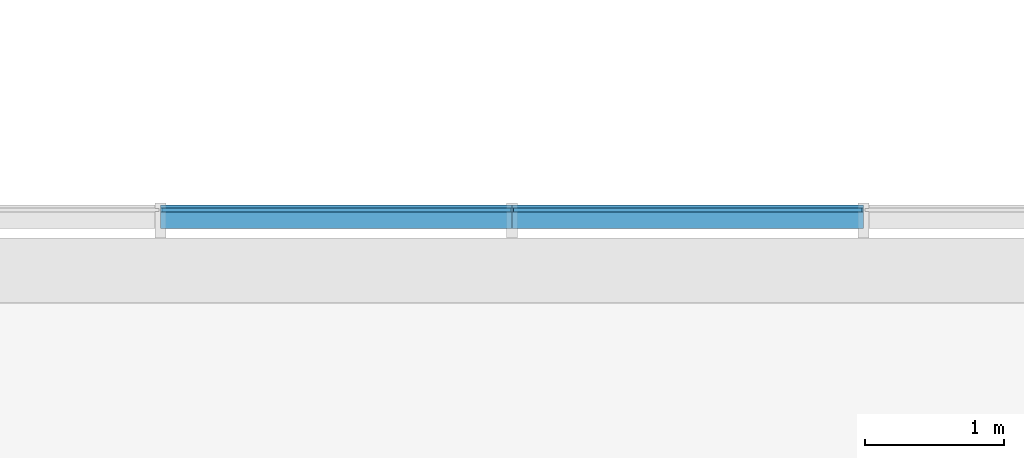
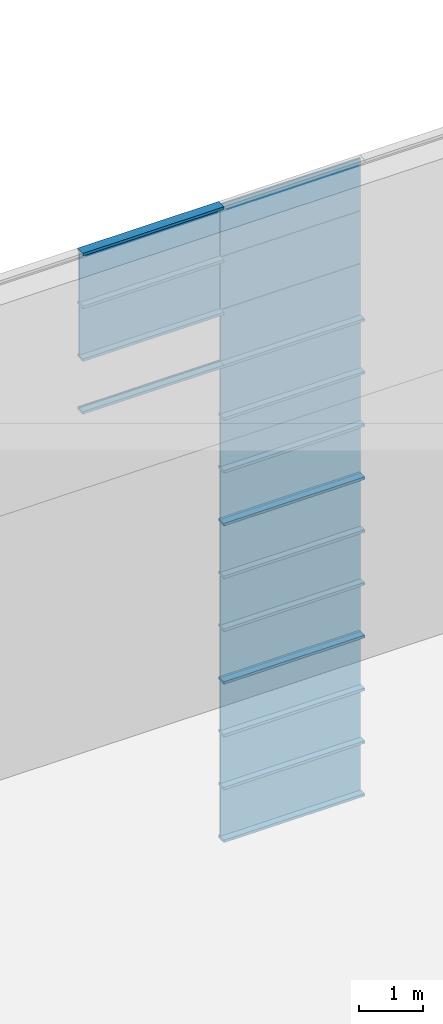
# One storey, part 49 of 105: 30 building element parts, 4 elements without a shape of their own.
"""IFC4 building model written with IfcOpenShell, lengths in millimetres."""

from ifc_helpers import new_model, entity, si_unit, converted_unit, derived_unit, direction, frame, origin_with_axes, place, context, subcontext, project, spatial, triangles, material, element, aggregate, save


model = new_model("IFC4")

# Units and contexts
model_context = context("Model", 3, precision=1e-05, world=origin_with_axes(), true_north=direction((0.0, 1.0)))
body_context = subcontext(model_context, "Body", "Model", "MODEL_VIEW")
ifc_project = project(units=[si_unit("LENGTHUNIT", "METRE", prefix="MILLI"), si_unit("AREAUNIT", "SQUARE_METRE"), si_unit("VOLUMEUNIT", "CUBIC_METRE"), converted_unit("PLANEANGLEUNIT", "DEGREE", entity("IfcLengthMeasure", 0.017453), si_unit("PLANEANGLEUNIT", "RADIAN"), dimensions=[0, 0, 0, 0, 0, 0, 0]), si_unit("SOLIDANGLEUNIT", "STERADIAN"), si_unit("MASSUNIT", "GRAM"), si_unit("TIMEUNIT", "SECOND"), si_unit("THERMODYNAMICTEMPERATUREUNIT", "DEGREE_CELSIUS"), si_unit("LUMINOUSINTENSITYUNIT", "LUMEN"), si_unit("POWERUNIT", "WATT"), derived_unit("THERMALTRANSMITTANCEUNIT", [(si_unit("POWERUNIT", "WATT"), 1), (si_unit("THERMODYNAMICTEMPERATUREUNIT", "KELVIN"), -1), (si_unit("AREAUNIT", "SQUARE_METRE"), -1)])], contexts=[model_context])

# Site, building, storey
site_placement = place(None, origin_with_axes())
site = spatial("IfcSite", under=ifc_project, at=site_placement, Name="Default Site", CompositionType="ELEMENT")
building_placement = place(site_placement, origin_with_axes())
building = spatial("IfcBuilding", under=site, at=building_placement, Name="Default Building", CompositionType="ELEMENT")
storey_placement = place(building_placement, origin_with_axes())
storey = spatial("IfcBuildingStorey", under=building, at=storey_placement, Name="OG - Story", CompositionType="ELEMENT", Elevation=0.0)

# Curtain wall, building element parts
curtain_wall_1_placement = place(storey_placement, origin_with_axes())
curtain_wall_1 = element("IfcCurtainWall", 1, at=curtain_wall_1_placement, inside=storey, Name="Fassade-004", PredefinedType="NOTDEFINED")
ifc_material_1 = material(Name="Normalglas")
building_element_part_1_placement = place(curtain_wall_1_placement, frame((33014.549222, -4389.262838, 0.0), z_axis=(0.0, 0.0, 1.0), x_axis=(1.0, 0.0, 0.0)))
building_element_part_1 = element("IfcBuildingElementPart", 2, at=building_element_part_1_placement, material=ifc_material_1, Name="Normalglas", PredefinedType="NOTDEFINED", context=body_context, shape_type="Tessellation", body=[
    triangles([(26516.316, -14.999, 995.0), (26516.316, 15.0, 995.0), (24010.0, 15.0, 995.0), (24010.0, -14.999, 995.0), (26516.316, -14.999, 5.0), (26516.316, 15.0, 5.0), (24010.0, 15.0, 5.0), (24010.0, -14.999, 5.0)], [[1, 2, 3], [1, 3, 4], [5, 6, 2], [5, 2, 1], [2, 6, 7], [2, 7, 3], [4, 3, 7], [4, 7, 8], [1, 4, 8], [1, 8, 5], [8, 7, 6], [8, 6, 5]], closed=False),
])
building_element_part_2_placement = place(curtain_wall_1_placement, frame((33014.549222, -4389.262838, 0.0), z_axis=(0.0, 0.0, 1.0), x_axis=(1.0, 0.0, 0.0)))
building_element_part_2 = element("IfcBuildingElementPart", 3, at=building_element_part_2_placement, material=ifc_material_1, Name="Normalglas", PredefinedType="NOTDEFINED", context=body_context, shape_type="Tessellation", body=[
    triangles([(26516.316, -14.999, 1995.0), (26516.316, 15.0, 1995.0), (24010.0, 15.0, 1995.0), (24010.0, -14.999, 1995.0), (26516.316, -14.999, 1005.0), (26516.316, 15.0, 1005.0), (24010.0, 15.0, 1005.0), (24010.0, -14.999, 1005.0)], [[1, 2, 3], [1, 3, 4], [5, 6, 2], [5, 2, 1], [2, 6, 7], [2, 7, 3], [4, 3, 7], [4, 7, 8], [1, 4, 8], [1, 8, 5], [8, 7, 6], [8, 6, 5]], closed=False),
])
building_element_part_3_placement = place(curtain_wall_1_placement, frame((33014.549222, -4389.262838, 0.0), z_axis=(0.0, 0.0, 1.0), x_axis=(1.0, 0.0, 0.0)))
building_element_part_3 = element("IfcBuildingElementPart", 4, at=building_element_part_3_placement, material=ifc_material_1, Name="Normalglas", PredefinedType="NOTDEFINED", context=body_context, shape_type="Tessellation", body=[
    triangles([(26516.316, -14.999, 2995.0), (26516.316, 15.0, 2995.0), (24010.0, 15.0, 2995.0), (24010.0, -14.999, 2995.0), (26516.316, -14.999, 2005.0), (26516.316, 15.0, 2005.0), (24010.0, 15.0, 2005.0), (24010.0, -14.999, 2005.0)], [[1, 2, 3], [1, 3, 4], [5, 6, 2], [5, 2, 1], [2, 6, 7], [2, 7, 3], [4, 3, 7], [4, 7, 8], [1, 4, 8], [1, 8, 5], [8, 7, 6], [8, 6, 5]], closed=False),
])
ifc_material_2 = material(Name="Blech")
building_element_part_4_placement = place(curtain_wall_1_placement, frame((33014.549222, -4389.262838, 0.0), z_axis=(0.0, 0.0, 1.0), x_axis=(1.0, 0.0, 0.0)))
building_element_part_4 = element("IfcBuildingElementPart", 5, at=building_element_part_4_placement, material=ifc_material_2, Name="Blech", PredefinedType="NOTDEFINED", context=body_context, shape_type="Tessellation", body=[
    triangles([(26526.316, 35.0, -24.999), (26526.316, 35.0, 25.0), (26526.316, 15.0, 25.0), (26526.316, 15.0, 5.0), (26526.316, -14.999, 5.0), (26526.316, -132.999, 25.0), (26526.316, -132.999, -24.999), (26526.316, -14.999, 25.0), (24000.0, -14.999, 5.0), (24000.0, -14.999, 25.0), (24000.0, -132.999, 25.0), (24000.0, -132.999, -24.999), (24000.0, 35.0, -24.999), (24000.0, 35.0, 25.0), (24000.0, 15.0, 25.0), (24000.0, 15.0, 5.0)], [[1, 2, 3], [1, 3, 4], [1, 4, 5], [1, 5, 6], [1, 6, 7], [8, 6, 5], [5, 9, 10], [5, 10, 8], [10, 11, 6], [10, 6, 8], [11, 12, 7], [11, 7, 6], [12, 13, 1], [12, 1, 7], [13, 14, 2], [13, 2, 1], [3, 2, 14], [3, 14, 15], [15, 16, 4], [15, 4, 3], [4, 16, 9], [4, 9, 5], [15, 16, 13], [13, 16, 9], [13, 9, 11], [11, 9, 10], [13, 11, 12], [15, 13, 14]], closed=False),
])
building_element_part_5_placement = place(curtain_wall_1_placement, frame((33014.549222, -4389.262838, 0.0), z_axis=(0.0, 0.0, 1.0), x_axis=(1.0, 0.0, 0.0)))
building_element_part_5 = element("IfcBuildingElementPart", 6, at=building_element_part_5_placement, material=ifc_material_2, Name="Blech", PredefinedType="NOTDEFINED", context=body_context, shape_type="Tessellation", body=[
    triangles([(26526.316, 35.0, 975.0), (26526.316, 15.0, 975.0), (26526.316, 35.0, 1025.0), (26526.316, 15.0, 995.0), (26526.316, 15.0, 1005.0), (26526.316, -14.999, 995.0), (26526.316, -14.999, 1005.0), (26526.316, -14.999, 1025.0), (26526.316, -14.999, 975.0), (26526.316, -132.999, 975.0), (26526.316, -132.999, 1025.0), (26526.316, 15.0, 1025.0), (24000.0, -14.999, 995.0), (24000.0, 15.0, 995.0), (24000.0, 15.0, 975.0), (24000.0, 35.0, 975.0), (24000.0, 35.0, 1025.0), (24000.0, 15.0, 1025.0), (24000.0, 15.0, 1005.0), (24000.0, -14.999, 1005.0), (24000.0, -14.999, 1025.0), (24000.0, -132.999, 1025.0), (24000.0, -132.999, 975.0), (24000.0, -14.999, 975.0)], [[1, 2, 3], [3, 2, 4], [3, 4, 5], [5, 4, 6], [5, 6, 7], [8, 9, 10], [8, 10, 11], [3, 5, 12], [6, 13, 14], [6, 14, 4], [4, 14, 15], [4, 15, 2], [15, 16, 1], [15, 1, 2], [1, 16, 17], [1, 17, 3], [18, 12, 3], [18, 3, 17], [12, 18, 19], [12, 19, 5], [7, 5, 19], [7, 19, 20], [8, 7, 20], [8, 20, 21], [8, 21, 22], [8, 22, 11], [11, 22, 23], [11, 23, 10], [9, 10, 23], [9, 23, 24], [9, 24, 13], [9, 13, 6], [17, 18, 16], [16, 18, 19], [16, 19, 14], [14, 19, 20], [14, 20, 13], [24, 21, 22], [24, 22, 23], [16, 14, 15]], closed=False),
])
building_element_part_6_placement = place(curtain_wall_1_placement, frame((33014.549222, -4389.262838, 0.0), z_axis=(0.0, 0.0, 1.0), x_axis=(1.0, 0.0, 0.0)))
building_element_part_6 = element("IfcBuildingElementPart", 7, at=building_element_part_6_placement, material=ifc_material_2, Name="Blech", PredefinedType="NOTDEFINED", context=body_context, shape_type="Tessellation", body=[
    triangles([(26526.316, 35.0, 1975.0), (26526.316, 15.0, 1975.0), (26526.316, 35.0, 2025.0), (26526.316, 15.0, 1995.0), (26526.316, 15.0, 2005.0), (26526.316, -14.999, 1995.0), (26526.316, -14.999, 2005.0), (26526.316, -14.999, 2025.0), (26526.316, -14.999, 1975.0), (26526.316, -132.999, 1975.0), (26526.316, -132.999, 2025.0), (26526.316, 15.0, 2025.0), (24000.0, -14.999, 1995.0), (24000.0, 15.0, 1995.0), (24000.0, 15.0, 1975.0), (24000.0, 35.0, 1975.0), (24000.0, 35.0, 2025.0), (24000.0, 15.0, 2025.0), (24000.0, 15.0, 2005.0), (24000.0, -14.999, 2005.0), (24000.0, -14.999, 2025.0), (24000.0, -132.999, 2025.0), (24000.0, -132.999, 1975.0), (24000.0, -14.999, 1975.0)], [[1, 2, 3], [3, 2, 4], [3, 4, 5], [5, 4, 6], [5, 6, 7], [8, 9, 10], [8, 10, 11], [3, 5, 12], [6, 13, 14], [6, 14, 4], [4, 14, 15], [4, 15, 2], [15, 16, 1], [15, 1, 2], [1, 16, 17], [1, 17, 3], [18, 12, 3], [18, 3, 17], [12, 18, 19], [12, 19, 5], [7, 5, 19], [7, 19, 20], [8, 7, 20], [8, 20, 21], [8, 21, 22], [8, 22, 11], [11, 22, 23], [11, 23, 10], [9, 10, 23], [9, 23, 24], [9, 24, 13], [9, 13, 6], [17, 18, 16], [16, 18, 19], [16, 19, 14], [14, 19, 20], [14, 20, 13], [24, 21, 22], [24, 22, 23], [16, 14, 15]], closed=False),
])
building_element_part_7_placement = place(curtain_wall_1_placement, frame((33014.549222, -4389.262838, 0.0), z_axis=(0.0, 0.0, 1.0), x_axis=(1.0, 0.0, 0.0)))
building_element_part_7 = element("IfcBuildingElementPart", 8, at=building_element_part_7_placement, material=ifc_material_2, Name="Blech", PredefinedType="NOTDEFINED", context=body_context, shape_type="Tessellation", body=[
    triangles([(26526.316, 15.0, 2975.0), (26526.316, 15.0, 2995.0), (26526.316, 35.0, 3025.0), (26526.316, -14.999, 2995.0), (26526.316, -132.999, 2975.0), (26526.316, -14.999, 2975.0), (26526.316, -132.999, 3025.0), (26526.316, 35.0, 2975.0), (24000.0, -14.999, 2995.0), (24000.0, 15.0, 2995.0), (24000.0, 15.0, 2975.0), (24000.0, 35.0, 2975.0), (24000.0, 35.0, 3025.0), (24000.0, -132.999, 3025.0), (24000.0, -132.999, 2975.0), (24000.0, -14.999, 2975.0)], [[1, 2, 3], [3, 2, 4], [3, 4, 5], [5, 4, 6], [3, 5, 7], [1, 3, 8], [2, 4, 9], [2, 9, 10], [11, 1, 2], [11, 2, 10], [1, 11, 12], [1, 12, 8], [13, 3, 8], [13, 8, 12], [14, 7, 3], [14, 3, 13], [15, 5, 7], [15, 7, 14], [16, 6, 5], [16, 5, 15], [4, 6, 16], [4, 16, 9], [13, 12, 11], [13, 11, 10], [13, 10, 9], [13, 9, 15], [13, 15, 14], [16, 15, 9]], closed=False),
])
aggregate(curtain_wall_1, [building_element_part_1, building_element_part_2, building_element_part_3, building_element_part_4, building_element_part_5, building_element_part_6, building_element_part_7])

curtain_wall_2_placement = place(storey_placement, origin_with_axes())
curtain_wall_2 = element("IfcCurtainWall", 9, at=curtain_wall_2_placement, inside=storey, Name="Fassade-004", PredefinedType="NOTDEFINED")
building_element_part_8_placement = place(curtain_wall_2_placement, frame((33014.549222, -4389.262838, 3000.0), z_axis=(0.0, 0.0, 1.0), x_axis=(1.0, 0.0, 0.0)))
building_element_part_8 = element("IfcBuildingElementPart", 10, at=building_element_part_8_placement, material=ifc_material_1, Name="Normalglas", PredefinedType="NOTDEFINED", context=body_context, shape_type="Tessellation", body=[
    triangles([(26516.316, -14.999, 995.0), (26516.316, 15.0, 995.0), (24010.0, 15.0, 995.0), (24010.0, -14.999, 995.0), (26516.316, -14.999, 5.0), (26516.316, 15.0, 5.0), (24010.0, 15.0, 5.0), (24010.0, -14.999, 5.0)], [[1, 2, 3], [1, 3, 4], [5, 6, 2], [5, 2, 1], [2, 6, 7], [2, 7, 3], [4, 3, 7], [4, 7, 8], [1, 4, 8], [1, 8, 5], [8, 7, 6], [8, 6, 5]], closed=False),
])
building_element_part_9_placement = place(curtain_wall_2_placement, frame((33014.549222, -4389.262838, 3000.0), z_axis=(0.0, 0.0, 1.0), x_axis=(1.0, 0.0, 0.0)))
building_element_part_9 = element("IfcBuildingElementPart", 11, at=building_element_part_9_placement, material=ifc_material_1, Name="Normalglas", PredefinedType="NOTDEFINED", context=body_context, shape_type="Tessellation", body=[
    triangles([(26516.316, -14.999, 1995.0), (26516.316, 15.0, 1995.0), (24010.0, 15.0, 1995.0), (24010.0, -14.999, 1995.0), (26516.316, -14.999, 1005.0), (26516.316, 15.0, 1005.0), (24010.0, 15.0, 1005.0), (24010.0, -14.999, 1005.0)], [[1, 2, 3], [1, 3, 4], [5, 6, 2], [5, 2, 1], [2, 6, 7], [2, 7, 3], [4, 3, 7], [4, 7, 8], [1, 4, 8], [1, 8, 5], [8, 7, 6], [8, 6, 5]], closed=False),
])
building_element_part_10_placement = place(curtain_wall_2_placement, frame((33014.549222, -4389.262838, 3000.0), z_axis=(0.0, 0.0, 1.0), x_axis=(1.0, 0.0, 0.0)))
building_element_part_10 = element("IfcBuildingElementPart", 12, at=building_element_part_10_placement, material=ifc_material_1, Name="Normalglas", PredefinedType="NOTDEFINED", context=body_context, shape_type="Tessellation", body=[
    triangles([(26516.316, -14.999, 2995.0), (26516.316, 15.0, 2995.0), (24010.0, 15.0, 2995.0), (24010.0, -14.999, 2995.0), (26516.316, -14.999, 2005.0), (26516.316, 15.0, 2005.0), (24010.0, 15.0, 2005.0), (24010.0, -14.999, 2005.0)], [[1, 2, 3], [1, 3, 4], [5, 6, 2], [5, 2, 1], [2, 6, 7], [2, 7, 3], [4, 3, 7], [4, 7, 8], [1, 4, 8], [1, 8, 5], [8, 7, 6], [8, 6, 5]], closed=False),
])
building_element_part_11_placement = place(curtain_wall_2_placement, frame((33014.549222, -4389.262838, 3000.0), z_axis=(0.0, 0.0, 1.0), x_axis=(1.0, 0.0, 0.0)))
building_element_part_11 = element("IfcBuildingElementPart", 13, at=building_element_part_11_placement, material=ifc_material_2, Name="Blech", PredefinedType="NOTDEFINED", context=body_context, shape_type="Tessellation", body=[
    triangles([(26526.316, 35.0, -24.999), (26526.316, 35.0, 25.0), (26526.316, 15.0, 25.0), (26526.316, 15.0, 5.0), (26526.316, -14.999, 5.0), (26526.316, -132.999, 25.0), (26526.316, -132.999, -24.999), (26526.316, -14.999, 25.0), (24000.0, -14.999, 5.0), (24000.0, -14.999, 25.0), (24000.0, -132.999, 25.0), (24000.0, -132.999, -24.999), (24000.0, 35.0, -24.999), (24000.0, 35.0, 25.0), (24000.0, 15.0, 25.0), (24000.0, 15.0, 5.0)], [[1, 2, 3], [1, 3, 4], [1, 4, 5], [1, 5, 6], [1, 6, 7], [8, 6, 5], [5, 9, 10], [5, 10, 8], [10, 11, 6], [10, 6, 8], [11, 12, 7], [11, 7, 6], [12, 13, 1], [12, 1, 7], [13, 14, 2], [13, 2, 1], [3, 2, 14], [3, 14, 15], [15, 16, 4], [15, 4, 3], [4, 16, 9], [4, 9, 5], [15, 16, 13], [13, 16, 9], [13, 9, 11], [11, 9, 10], [13, 11, 12], [15, 13, 14]], closed=False),
])
building_element_part_12_placement = place(curtain_wall_2_placement, frame((33014.549222, -4389.262838, 3000.0), z_axis=(0.0, 0.0, 1.0), x_axis=(1.0, 0.0, 0.0)))
building_element_part_12 = element("IfcBuildingElementPart", 14, at=building_element_part_12_placement, material=ifc_material_2, Name="Blech", PredefinedType="NOTDEFINED", context=body_context, shape_type="Tessellation", body=[
    triangles([(26526.316, 35.0, 975.0), (26526.316, 15.0, 975.0), (26526.316, 35.0, 1025.0), (26526.316, 15.0, 995.0), (26526.316, 15.0, 1005.0), (26526.316, -14.999, 995.0), (26526.316, -14.999, 1005.0), (26526.316, -14.999, 1025.0), (26526.316, -14.999, 975.0), (26526.316, -132.999, 975.0), (26526.316, -132.999, 1025.0), (26526.316, 15.0, 1025.0), (24000.0, -14.999, 995.0), (24000.0, 15.0, 995.0), (24000.0, 15.0, 975.0), (24000.0, 35.0, 975.0), (24000.0, 35.0, 1025.0), (24000.0, 15.0, 1025.0), (24000.0, 15.0, 1005.0), (24000.0, -14.999, 1005.0), (24000.0, -14.999, 1025.0), (24000.0, -132.999, 1025.0), (24000.0, -132.999, 975.0), (24000.0, -14.999, 975.0)], [[1, 2, 3], [3, 2, 4], [3, 4, 5], [5, 4, 6], [5, 6, 7], [8, 9, 10], [8, 10, 11], [3, 5, 12], [6, 13, 14], [6, 14, 4], [4, 14, 15], [4, 15, 2], [15, 16, 1], [15, 1, 2], [1, 16, 17], [1, 17, 3], [18, 12, 3], [18, 3, 17], [12, 18, 19], [12, 19, 5], [7, 5, 19], [7, 19, 20], [8, 7, 20], [8, 20, 21], [8, 21, 22], [8, 22, 11], [11, 22, 23], [11, 23, 10], [9, 10, 23], [9, 23, 24], [9, 24, 13], [9, 13, 6], [17, 18, 16], [16, 18, 19], [16, 19, 14], [14, 19, 20], [14, 20, 13], [24, 21, 22], [24, 22, 23], [16, 14, 15]], closed=False),
])
building_element_part_13_placement = place(curtain_wall_2_placement, frame((33014.549222, -4389.262838, 3000.0), z_axis=(0.0, 0.0, 1.0), x_axis=(1.0, 0.0, 0.0)))
building_element_part_13 = element("IfcBuildingElementPart", 15, at=building_element_part_13_placement, material=ifc_material_2, Name="Blech", PredefinedType="NOTDEFINED", context=body_context, shape_type="Tessellation", body=[
    triangles([(26526.316, 35.0, 1975.0), (26526.316, 15.0, 1975.0), (26526.316, 35.0, 2025.0), (26526.316, 15.0, 1995.0), (26526.316, 15.0, 2005.0), (26526.316, -14.999, 1995.0), (26526.316, -14.999, 2005.0), (26526.316, -14.999, 2025.0), (26526.316, -14.999, 1975.0), (26526.316, -132.999, 1975.0), (26526.316, -132.999, 2025.0), (26526.316, 15.0, 2025.0), (24000.0, -14.999, 1995.0), (24000.0, 15.0, 1995.0), (24000.0, 15.0, 1975.0), (24000.0, 35.0, 1975.0), (24000.0, 35.0, 2025.0), (24000.0, 15.0, 2025.0), (24000.0, 15.0, 2005.0), (24000.0, -14.999, 2005.0), (24000.0, -14.999, 2025.0), (24000.0, -132.999, 2025.0), (24000.0, -132.999, 1975.0), (24000.0, -14.999, 1975.0)], [[1, 2, 3], [3, 2, 4], [3, 4, 5], [5, 4, 6], [5, 6, 7], [8, 9, 10], [8, 10, 11], [3, 5, 12], [6, 13, 14], [6, 14, 4], [4, 14, 15], [4, 15, 2], [15, 16, 1], [15, 1, 2], [1, 16, 17], [1, 17, 3], [18, 12, 3], [18, 3, 17], [12, 18, 19], [12, 19, 5], [7, 5, 19], [7, 19, 20], [8, 7, 20], [8, 20, 21], [8, 21, 22], [8, 22, 11], [11, 22, 23], [11, 23, 10], [9, 10, 23], [9, 23, 24], [9, 24, 13], [9, 13, 6], [17, 18, 16], [16, 18, 19], [16, 19, 14], [14, 19, 20], [14, 20, 13], [24, 21, 22], [24, 22, 23], [16, 14, 15]], closed=False),
])
building_element_part_14_placement = place(curtain_wall_2_placement, frame((33014.549222, -4389.262838, 3000.0), z_axis=(0.0, 0.0, 1.0), x_axis=(1.0, 0.0, 0.0)))
building_element_part_14 = element("IfcBuildingElementPart", 16, at=building_element_part_14_placement, material=ifc_material_2, Name="Blech", PredefinedType="NOTDEFINED", context=body_context, shape_type="Tessellation", body=[
    triangles([(26526.316, 15.0, 2975.0), (26526.316, 15.0, 2995.0), (26526.316, 35.0, 3025.0), (26526.316, -14.999, 2995.0), (26526.316, -132.999, 2975.0), (26526.316, -14.999, 2975.0), (26526.316, -132.999, 3025.0), (26526.316, 35.0, 2975.0), (24000.0, -14.999, 2995.0), (24000.0, 15.0, 2995.0), (24000.0, 15.0, 2975.0), (24000.0, 35.0, 2975.0), (24000.0, 35.0, 3025.0), (24000.0, -132.999, 3025.0), (24000.0, -132.999, 2975.0), (24000.0, -14.999, 2975.0)], [[1, 2, 3], [3, 2, 4], [3, 4, 5], [5, 4, 6], [3, 5, 7], [1, 3, 8], [2, 4, 9], [2, 9, 10], [11, 1, 2], [11, 2, 10], [1, 11, 12], [1, 12, 8], [13, 3, 8], [13, 8, 12], [14, 7, 3], [14, 3, 13], [15, 5, 7], [15, 7, 14], [16, 6, 5], [16, 5, 15], [4, 6, 16], [4, 16, 9], [13, 12, 11], [13, 11, 10], [13, 10, 9], [13, 9, 15], [13, 15, 14], [16, 15, 9]], closed=False),
])
aggregate(curtain_wall_2, [building_element_part_8, building_element_part_9, building_element_part_10, building_element_part_11, building_element_part_12, building_element_part_13, building_element_part_14])

curtain_wall_3_placement = place(storey_placement, origin_with_axes())
curtain_wall_3 = element("IfcCurtainWall", 17, at=curtain_wall_3_placement, inside=storey, Name="Fassade-004", PredefinedType="NOTDEFINED")
building_element_part_15_placement = place(curtain_wall_3_placement, frame((33014.549222, -4389.262838, 6000.0), z_axis=(0.0, 0.0, 1.0), x_axis=(1.0, 0.0, 0.0)))
building_element_part_15 = element("IfcBuildingElementPart", 18, at=building_element_part_15_placement, material=ifc_material_1, Name="Normalglas", PredefinedType="NOTDEFINED", context=body_context, shape_type="Tessellation", body=[
    triangles([(26516.316, -14.999, 995.0), (26516.316, 15.0, 995.0), (24010.0, 15.0, 995.0), (24010.0, -14.999, 995.0), (26516.316, -14.999, 5.0), (26516.316, 15.0, 5.0), (24010.0, 15.0, 5.0), (24010.0, -14.999, 5.0)], [[1, 2, 3], [1, 3, 4], [5, 6, 2], [5, 2, 1], [2, 6, 7], [2, 7, 3], [4, 3, 7], [4, 7, 8], [1, 4, 8], [1, 8, 5], [8, 7, 6], [8, 6, 5]], closed=False),
])
building_element_part_16_placement = place(curtain_wall_3_placement, frame((33014.549222, -4389.262838, 6000.0), z_axis=(0.0, 0.0, 1.0), x_axis=(1.0, 0.0, 0.0)))
building_element_part_16 = element("IfcBuildingElementPart", 19, at=building_element_part_16_placement, material=ifc_material_1, Name="Normalglas", PredefinedType="NOTDEFINED", context=body_context, shape_type="Tessellation", body=[
    triangles([(26516.316, -14.999, 1995.0), (26516.316, 15.0, 1995.0), (24010.0, 15.0, 1995.0), (24010.0, -14.999, 1995.0), (26516.316, -14.999, 1005.0), (26516.316, 15.0, 1005.0), (24010.0, 15.0, 1005.0), (24010.0, -14.999, 1005.0)], [[1, 2, 3], [1, 3, 4], [5, 6, 2], [5, 2, 1], [2, 6, 7], [2, 7, 3], [4, 3, 7], [4, 7, 8], [1, 4, 8], [1, 8, 5], [8, 7, 6], [8, 6, 5]], closed=False),
])
building_element_part_17_placement = place(curtain_wall_3_placement, frame((33014.549222, -4389.262838, 6000.0), z_axis=(0.0, 0.0, 1.0), x_axis=(1.0, 0.0, 0.0)))
building_element_part_17 = element("IfcBuildingElementPart", 20, at=building_element_part_17_placement, material=ifc_material_1, Name="Normalglas", PredefinedType="NOTDEFINED", context=body_context, shape_type="Tessellation", body=[
    triangles([(26516.316, -14.999, 2995.0), (26516.316, 15.0, 2995.0), (24010.0, 15.0, 2995.0), (24010.0, -14.999, 2995.0), (26516.316, -14.999, 2005.0), (26516.316, 15.0, 2005.0), (24010.0, 15.0, 2005.0), (24010.0, -14.999, 2005.0)], [[1, 2, 3], [1, 3, 4], [5, 6, 2], [5, 2, 1], [2, 6, 7], [2, 7, 3], [4, 3, 7], [4, 7, 8], [1, 4, 8], [1, 8, 5], [8, 7, 6], [8, 6, 5]], closed=False),
])
building_element_part_18_placement = place(curtain_wall_3_placement, frame((33014.549222, -4389.262838, 6000.0), z_axis=(0.0, 0.0, 1.0), x_axis=(1.0, 0.0, 0.0)))
building_element_part_18 = element("IfcBuildingElementPart", 21, at=building_element_part_18_placement, material=ifc_material_2, Name="Blech", PredefinedType="NOTDEFINED", context=body_context, shape_type="Tessellation", body=[
    triangles([(26526.316, 35.0, -24.999), (26526.316, 35.0, 25.0), (26526.316, 15.0, 25.0), (26526.316, 15.0, 5.0), (26526.316, -14.999, 5.0), (26526.316, -132.999, 25.0), (26526.316, -132.999, -24.999), (26526.316, -14.999, 25.0), (24000.0, -14.999, 5.0), (24000.0, -14.999, 25.0), (24000.0, -132.999, 25.0), (24000.0, -132.999, -24.999), (24000.0, 35.0, -24.999), (24000.0, 35.0, 25.0), (24000.0, 15.0, 25.0), (24000.0, 15.0, 5.0)], [[1, 2, 3], [1, 3, 4], [1, 4, 5], [1, 5, 6], [1, 6, 7], [8, 6, 5], [5, 9, 10], [5, 10, 8], [10, 11, 6], [10, 6, 8], [11, 12, 7], [11, 7, 6], [12, 13, 1], [12, 1, 7], [13, 14, 2], [13, 2, 1], [3, 2, 14], [3, 14, 15], [15, 16, 4], [15, 4, 3], [4, 16, 9], [4, 9, 5], [15, 16, 13], [13, 16, 9], [13, 9, 11], [11, 9, 10], [13, 11, 12], [15, 13, 14]], closed=False),
])
building_element_part_19_placement = place(curtain_wall_3_placement, frame((33014.549222, -4389.262838, 6000.0), z_axis=(0.0, 0.0, 1.0), x_axis=(1.0, 0.0, 0.0)))
building_element_part_19 = element("IfcBuildingElementPart", 22, at=building_element_part_19_placement, material=ifc_material_2, Name="Blech", PredefinedType="NOTDEFINED", context=body_context, shape_type="Tessellation", body=[
    triangles([(26526.316, 35.0, 975.0), (26526.316, 15.0, 975.0), (26526.316, 35.0, 1025.0), (26526.316, 15.0, 995.0), (26526.316, 15.0, 1005.0), (26526.316, -14.999, 995.0), (26526.316, -14.999, 1005.0), (26526.316, -14.999, 1025.0), (26526.316, -14.999, 975.0), (26526.316, -132.999, 975.0), (26526.316, -132.999, 1025.0), (26526.316, 15.0, 1025.0), (24000.0, -14.999, 995.0), (24000.0, 15.0, 995.0), (24000.0, 15.0, 975.0), (24000.0, 35.0, 975.0), (24000.0, 35.0, 1025.0), (24000.0, 15.0, 1025.0), (24000.0, 15.0, 1005.0), (24000.0, -14.999, 1005.0), (24000.0, -14.999, 1025.0), (24000.0, -132.999, 1025.0), (24000.0, -132.999, 975.0), (24000.0, -14.999, 975.0)], [[1, 2, 3], [3, 2, 4], [3, 4, 5], [5, 4, 6], [5, 6, 7], [8, 9, 10], [8, 10, 11], [3, 5, 12], [6, 13, 14], [6, 14, 4], [4, 14, 15], [4, 15, 2], [15, 16, 1], [15, 1, 2], [1, 16, 17], [1, 17, 3], [18, 12, 3], [18, 3, 17], [12, 18, 19], [12, 19, 5], [7, 5, 19], [7, 19, 20], [8, 7, 20], [8, 20, 21], [8, 21, 22], [8, 22, 11], [11, 22, 23], [11, 23, 10], [9, 10, 23], [9, 23, 24], [9, 24, 13], [9, 13, 6], [17, 18, 16], [16, 18, 19], [16, 19, 14], [14, 19, 20], [14, 20, 13], [24, 21, 22], [24, 22, 23], [16, 14, 15]], closed=False),
])
building_element_part_20_placement = place(curtain_wall_3_placement, frame((33014.549222, -4389.262838, 6000.0), z_axis=(0.0, 0.0, 1.0), x_axis=(1.0, 0.0, 0.0)))
building_element_part_20 = element("IfcBuildingElementPart", 23, at=building_element_part_20_placement, material=ifc_material_2, Name="Blech", PredefinedType="NOTDEFINED", context=body_context, shape_type="Tessellation", body=[
    triangles([(26526.316, 35.0, 1975.0), (26526.316, 15.0, 1975.0), (26526.316, 35.0, 2025.0), (26526.316, 15.0, 1995.0), (26526.316, 15.0, 2005.0), (26526.316, -14.999, 1995.0), (26526.316, -14.999, 2005.0), (26526.316, -14.999, 2025.0), (26526.316, -14.999, 1975.0), (26526.316, -132.999, 1975.0), (26526.316, -132.999, 2025.0), (26526.316, 15.0, 2025.0), (24000.0, -14.999, 1995.0), (24000.0, 15.0, 1995.0), (24000.0, 15.0, 1975.0), (24000.0, 35.0, 1975.0), (24000.0, 35.0, 2025.0), (24000.0, 15.0, 2025.0), (24000.0, 15.0, 2005.0), (24000.0, -14.999, 2005.0), (24000.0, -14.999, 2025.0), (24000.0, -132.999, 2025.0), (24000.0, -132.999, 1975.0), (24000.0, -14.999, 1975.0)], [[1, 2, 3], [3, 2, 4], [3, 4, 5], [5, 4, 6], [5, 6, 7], [8, 9, 10], [8, 10, 11], [3, 5, 12], [6, 13, 14], [6, 14, 4], [4, 14, 15], [4, 15, 2], [15, 16, 1], [15, 1, 2], [1, 16, 17], [1, 17, 3], [18, 12, 3], [18, 3, 17], [12, 18, 19], [12, 19, 5], [7, 5, 19], [7, 19, 20], [8, 7, 20], [8, 20, 21], [8, 21, 22], [8, 22, 11], [11, 22, 23], [11, 23, 10], [9, 10, 23], [9, 23, 24], [9, 24, 13], [9, 13, 6], [17, 18, 16], [16, 18, 19], [16, 19, 14], [14, 19, 20], [14, 20, 13], [24, 21, 22], [24, 22, 23], [16, 14, 15]], closed=False),
])
building_element_part_21_placement = place(curtain_wall_3_placement, frame((33014.549222, -4389.262838, 6000.0), z_axis=(0.0, 0.0, 1.0), x_axis=(1.0, 0.0, 0.0)))
building_element_part_21 = element("IfcBuildingElementPart", 24, at=building_element_part_21_placement, material=ifc_material_2, Name="Blech", PredefinedType="NOTDEFINED", context=body_context, shape_type="Tessellation", body=[
    triangles([(26526.316, 15.0, 2975.0), (26526.316, 15.0, 2995.0), (26526.316, 35.0, 3025.0), (26526.316, -14.999, 2995.0), (26526.316, -132.999, 2975.0), (26526.316, -14.999, 2975.0), (26526.316, -132.999, 3025.0), (26526.316, 35.0, 2975.0), (24000.0, -14.999, 2995.0), (24000.0, 15.0, 2995.0), (24000.0, 15.0, 2975.0), (24000.0, 35.0, 2975.0), (24000.0, 35.0, 3025.0), (24000.0, -132.999, 3025.0), (24000.0, -132.999, 2975.0), (24000.0, -14.999, 2975.0)], [[1, 2, 3], [3, 2, 4], [3, 4, 5], [5, 4, 6], [3, 5, 7], [1, 3, 8], [2, 4, 9], [2, 9, 10], [11, 1, 2], [11, 2, 10], [1, 11, 12], [1, 12, 8], [13, 3, 8], [13, 8, 12], [14, 7, 3], [14, 3, 13], [15, 5, 7], [15, 7, 14], [16, 6, 5], [16, 5, 15], [4, 6, 16], [4, 16, 9], [13, 12, 11], [13, 11, 10], [13, 10, 9], [13, 9, 15], [13, 15, 14], [16, 15, 9]], closed=False),
])
aggregate(curtain_wall_3, [building_element_part_15, building_element_part_16, building_element_part_17, building_element_part_18, building_element_part_19, building_element_part_20, building_element_part_21])

curtain_wall_4_placement = place(storey_placement, origin_with_axes())
curtain_wall_4 = element("IfcCurtainWall", 25, at=curtain_wall_4_placement, inside=storey, Name="Fassade-004", PredefinedType="NOTDEFINED")
building_element_part_22_placement = place(curtain_wall_4_placement, frame((33014.549222, -4389.262838, 9000.0), z_axis=(0.0, 0.0, 1.0), x_axis=(1.0, 0.0, 0.0)))
building_element_part_22 = element("IfcBuildingElementPart", 26, at=building_element_part_22_placement, material=ifc_material_1, Name="Normalglas", PredefinedType="NOTDEFINED", context=body_context, shape_type="Tessellation", body=[
    triangles([(26516.316, -14.999, 995.0), (26516.316, 15.0, 995.0), (24010.0, 15.0, 995.0), (24010.0, -14.999, 995.0), (26516.316, -14.999, 5.0), (26516.316, 15.0, 5.0), (24010.0, 15.0, 5.0), (24010.0, -14.999, 5.0)], [[1, 2, 3], [1, 3, 4], [5, 6, 2], [5, 2, 1], [2, 6, 7], [2, 7, 3], [4, 3, 7], [4, 7, 8], [1, 4, 8], [1, 8, 5], [8, 7, 6], [8, 6, 5]], closed=False),
])
building_element_part_23_placement = place(curtain_wall_4_placement, frame((33014.549222, -4389.262838, 9000.0), z_axis=(0.0, 0.0, 1.0), x_axis=(1.0, 0.0, 0.0)))
building_element_part_23 = element("IfcBuildingElementPart", 27, at=building_element_part_23_placement, material=ifc_material_1, Name="Normalglas", PredefinedType="NOTDEFINED", context=body_context, shape_type="Tessellation", body=[
    triangles([(23990.0, -14.999, 1995.0), (23990.0, 15.0, 1995.0), (21483.684, 15.0, 1995.0), (21483.684, -14.999, 1995.0), (23990.0, -14.999, 1005.0), (23990.0, 15.0, 1005.0), (21483.684, 15.0, 1005.0), (21483.684, -14.999, 1005.0)], [[1, 2, 3], [1, 3, 4], [5, 6, 2], [5, 2, 1], [2, 6, 7], [2, 7, 3], [4, 3, 7], [4, 7, 8], [1, 4, 8], [1, 8, 5], [8, 7, 6], [8, 6, 5]], closed=False),
])
building_element_part_24_placement = place(curtain_wall_4_placement, frame((33014.549222, -4389.262838, 9000.0), z_axis=(0.0, 0.0, 1.0), x_axis=(1.0, 0.0, 0.0)))
building_element_part_24 = element("IfcBuildingElementPart", 28, at=building_element_part_24_placement, material=ifc_material_1, Name="Normalglas", PredefinedType="NOTDEFINED", context=body_context, shape_type="Tessellation", body=[
    triangles([(26516.316, -14.999, 1995.0), (26516.316, 15.0, 1995.0), (24010.0, 15.0, 1995.0), (24010.0, -14.999, 1995.0), (26516.316, -14.999, 1005.0), (26516.316, 15.0, 1005.0), (24010.0, 15.0, 1005.0), (24010.0, -14.999, 1005.0)], [[1, 2, 3], [1, 3, 4], [5, 6, 2], [5, 2, 1], [2, 6, 7], [2, 7, 3], [4, 3, 7], [4, 7, 8], [1, 4, 8], [1, 8, 5], [8, 7, 6], [8, 6, 5]], closed=False),
])
building_element_part_25_placement = place(curtain_wall_4_placement, frame((33014.549222, -4389.262838, 9000.0), z_axis=(0.0, 0.0, 1.0), x_axis=(1.0, 0.0, 0.0)))
building_element_part_25 = element("IfcBuildingElementPart", 29, at=building_element_part_25_placement, material=ifc_material_1, Name="Normalglas", PredefinedType="NOTDEFINED", context=body_context, shape_type="Tessellation", body=[
    triangles([(23990.0, -14.999, 2995.0), (23990.0, 15.0, 2995.0), (21483.684, 15.0, 2995.0), (21483.684, -14.999, 2995.0), (23990.0, -14.999, 2005.0), (23990.0, 15.0, 2005.0), (21483.684, 15.0, 2005.0), (21483.684, -14.999, 2005.0)], [[1, 2, 3], [1, 3, 4], [5, 6, 2], [5, 2, 1], [2, 6, 7], [2, 7, 3], [4, 3, 7], [4, 7, 8], [1, 4, 8], [1, 8, 5], [8, 7, 6], [8, 6, 5]], closed=False),
])
building_element_part_26_placement = place(curtain_wall_4_placement, frame((33014.549222, -4389.262838, 9000.0), z_axis=(0.0, 0.0, 1.0), x_axis=(1.0, 0.0, 0.0)))
building_element_part_26 = element("IfcBuildingElementPart", 30, at=building_element_part_26_placement, material=ifc_material_1, Name="Normalglas", PredefinedType="NOTDEFINED", context=body_context, shape_type="Tessellation", body=[
    triangles([(26516.316, -14.999, 2995.0), (26516.316, 15.0, 2995.0), (24010.0, 15.0, 2995.0), (24010.0, -14.999, 2995.0), (26516.316, -14.999, 2005.0), (26516.316, 15.0, 2005.0), (24010.0, 15.0, 2005.0), (24010.0, -14.999, 2005.0)], [[1, 2, 3], [1, 3, 4], [5, 6, 2], [5, 2, 1], [2, 6, 7], [2, 7, 3], [4, 3, 7], [4, 7, 8], [1, 4, 8], [1, 8, 5], [8, 7, 6], [8, 6, 5]], closed=False),
])
building_element_part_27_placement = place(curtain_wall_4_placement, frame((33014.549222, -4389.262838, 9000.0), z_axis=(0.0, 0.0, 1.0), x_axis=(1.0, 0.0, 0.0)))
building_element_part_27 = element("IfcBuildingElementPart", 31, at=building_element_part_27_placement, material=ifc_material_2, Name="Blech", PredefinedType="NOTDEFINED", context=body_context, shape_type="Tessellation", body=[
    triangles([(24000.0, 35.0, -24.999), (24000.0, 35.0, 25.0), (24000.0, 15.0, 25.0), (24000.0, 15.0, 5.0), (24000.0, -14.999, 5.0), (24000.0, -132.999, 25.0), (24000.0, -132.999, -24.999), (24000.0, -14.999, 25.0), (21473.684, -14.999, 5.0), (21473.684, -14.999, 25.0), (21473.684, -132.999, 25.0), (21473.684, -132.999, -24.999), (21473.684, 35.0, -24.999), (21473.684, 35.0, 25.0), (21473.684, 15.0, 25.0), (21473.684, 15.0, 5.0)], [[1, 2, 3], [1, 3, 4], [1, 4, 5], [1, 5, 6], [1, 6, 7], [8, 6, 5], [5, 9, 10], [5, 10, 8], [10, 11, 6], [10, 6, 8], [11, 12, 7], [11, 7, 6], [12, 13, 1], [12, 1, 7], [13, 14, 2], [13, 2, 1], [3, 2, 14], [3, 14, 15], [15, 16, 4], [15, 4, 3], [4, 16, 9], [4, 9, 5], [15, 16, 13], [13, 16, 9], [13, 9, 11], [11, 9, 10], [13, 11, 12], [15, 13, 14]], closed=False),
])
building_element_part_28_placement = place(curtain_wall_4_placement, frame((33014.549222, -4389.262838, 9000.0), z_axis=(0.0, 0.0, 1.0), x_axis=(1.0, 0.0, 0.0)))
building_element_part_28 = element("IfcBuildingElementPart", 32, at=building_element_part_28_placement, material=ifc_material_2, Name="Blech", PredefinedType="NOTDEFINED", context=body_context, shape_type="Tessellation", body=[
    triangles([(24000.0, 35.0, 975.0), (24000.0, 15.0, 975.0), (24000.0, 35.0, 1025.0), (24000.0, 15.0, 995.0), (24000.0, 15.0, 1005.0), (24000.0, -14.999, 995.0), (24000.0, -14.999, 1005.0), (24000.0, -14.999, 1025.0), (24000.0, -14.999, 975.0), (24000.0, -132.999, 975.0), (24000.0, -132.999, 1025.0), (24000.0, 15.0, 1025.0), (21473.684, -14.999, 995.0), (21473.684, 15.0, 995.0), (21473.684, 15.0, 975.0), (21473.684, 35.0, 975.0), (21473.684, 35.0, 1025.0), (21473.684, 15.0, 1025.0), (21473.684, 15.0, 1005.0), (21473.684, -14.999, 1005.0), (21473.684, -14.999, 1025.0), (21473.684, -132.999, 1025.0), (21473.684, -132.999, 975.0), (21473.684, -14.999, 975.0)], [[1, 2, 3], [3, 2, 4], [3, 4, 5], [5, 4, 6], [5, 6, 7], [8, 9, 10], [8, 10, 11], [3, 5, 12], [6, 13, 14], [6, 14, 4], [4, 14, 15], [4, 15, 2], [15, 16, 1], [15, 1, 2], [1, 16, 17], [1, 17, 3], [18, 12, 3], [18, 3, 17], [12, 18, 19], [12, 19, 5], [7, 5, 19], [7, 19, 20], [8, 7, 20], [8, 20, 21], [8, 21, 22], [8, 22, 11], [11, 22, 23], [11, 23, 10], [9, 10, 23], [9, 23, 24], [9, 24, 13], [9, 13, 6], [17, 18, 16], [16, 18, 19], [16, 19, 14], [14, 19, 20], [14, 20, 13], [24, 21, 22], [24, 22, 23], [16, 14, 15]], closed=False),
])
building_element_part_29_placement = place(curtain_wall_4_placement, frame((33014.549222, -4389.262838, 9000.0), z_axis=(0.0, 0.0, 1.0), x_axis=(1.0, 0.0, 0.0)))
building_element_part_29 = element("IfcBuildingElementPart", 33, at=building_element_part_29_placement, material=ifc_material_2, Name="Blech", PredefinedType="NOTDEFINED", context=body_context, shape_type="Tessellation", body=[
    triangles([(24000.0, 35.0, 1975.0), (24000.0, 15.0, 1975.0), (24000.0, 35.0, 2025.0), (24000.0, 15.0, 1995.0), (24000.0, 15.0, 2005.0), (24000.0, -14.999, 1995.0), (24000.0, -14.999, 2005.0), (24000.0, -14.999, 2025.0), (24000.0, -14.999, 1975.0), (24000.0, -132.999, 1975.0), (24000.0, -132.999, 2025.0), (24000.0, 15.0, 2025.0), (21473.684, -14.999, 1995.0), (21473.684, 15.0, 1995.0), (21473.684, 15.0, 1975.0), (21473.684, 35.0, 1975.0), (21473.684, 35.0, 2025.0), (21473.684, 15.0, 2025.0), (21473.684, 15.0, 2005.0), (21473.684, -14.999, 2005.0), (21473.684, -14.999, 2025.0), (21473.684, -132.999, 2025.0), (21473.684, -132.999, 1975.0), (21473.684, -14.999, 1975.0)], [[1, 2, 3], [3, 2, 4], [3, 4, 5], [5, 4, 6], [5, 6, 7], [8, 9, 10], [8, 10, 11], [3, 5, 12], [6, 13, 14], [6, 14, 4], [4, 14, 15], [4, 15, 2], [15, 16, 1], [15, 1, 2], [1, 16, 17], [1, 17, 3], [18, 12, 3], [18, 3, 17], [12, 18, 19], [12, 19, 5], [7, 5, 19], [7, 19, 20], [8, 7, 20], [8, 20, 21], [8, 21, 22], [8, 22, 11], [11, 22, 23], [11, 23, 10], [9, 10, 23], [9, 23, 24], [9, 24, 13], [9, 13, 6], [17, 18, 16], [16, 18, 19], [16, 19, 14], [14, 19, 20], [14, 20, 13], [24, 21, 22], [24, 22, 23], [16, 14, 15]], closed=False),
])
building_element_part_30_placement = place(curtain_wall_4_placement, frame((33014.549222, -4389.262838, 9000.0), z_axis=(0.0, 0.0, 1.0), x_axis=(1.0, 0.0, 0.0)))
building_element_part_30 = element("IfcBuildingElementPart", 34, at=building_element_part_30_placement, material=ifc_material_2, Name="Blech", PredefinedType="NOTDEFINED", context=body_context, shape_type="Tessellation", body=[
    triangles([(24000.0, 15.0, 2975.0), (24000.0, 15.0, 2995.0), (24000.0, 35.0, 3025.0), (24000.0, -14.999, 2995.0), (24000.0, -132.999, 2975.0), (24000.0, -14.999, 2975.0), (24000.0, -132.999, 3025.0), (24000.0, 35.0, 2975.0), (21473.684, -14.999, 2995.0), (21473.684, 15.0, 2995.0), (21473.684, 15.0, 2975.0), (21473.684, 35.0, 2975.0), (21473.684, 35.0, 3025.0), (21473.684, -132.999, 3025.0), (21473.684, -132.999, 2975.0), (21473.684, -14.999, 2975.0)], [[1, 2, 3], [3, 2, 4], [3, 4, 5], [5, 4, 6], [3, 5, 7], [1, 3, 8], [2, 4, 9], [2, 9, 10], [11, 1, 2], [11, 2, 10], [1, 11, 12], [1, 12, 8], [13, 3, 8], [13, 8, 12], [14, 7, 3], [14, 3, 13], [15, 5, 7], [15, 7, 14], [16, 6, 5], [16, 5, 15], [4, 6, 16], [4, 16, 9], [13, 12, 11], [13, 11, 10], [13, 10, 9], [13, 9, 15], [13, 15, 14], [16, 15, 9]], closed=False),
])
aggregate(curtain_wall_4, [building_element_part_22, building_element_part_23, building_element_part_24, building_element_part_25, building_element_part_26, building_element_part_27, building_element_part_28, building_element_part_29, building_element_part_30])

save(model, "model.ifc")
